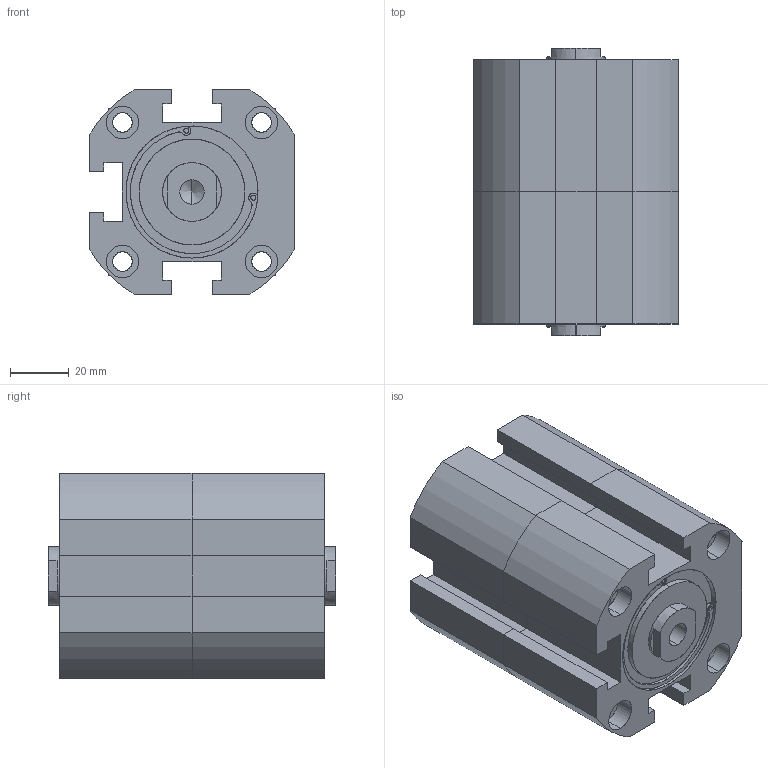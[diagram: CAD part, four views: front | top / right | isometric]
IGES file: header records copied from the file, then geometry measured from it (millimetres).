
Start section: SolidWorks IGES file using analytic representation for surfaces
Global section: file name: C:\Users\Toshiba\Desktop\XGD7-50-10-10.IGS; native system: SolidWorks 2014; preprocessor: SolidWorks 2014; author: Toshiba; date: 160805.094440; units: millimetre
Bounding box: 70 x 98 x 70 mm (x, y, z)
Surface area: 58942.1 mm2 (no closed solid volume)
Topology: 0 solids, 0 shells, 228 faces, 4084 edges, 4072 vertices
Faces by surface type: revolution 128, bspline 100
